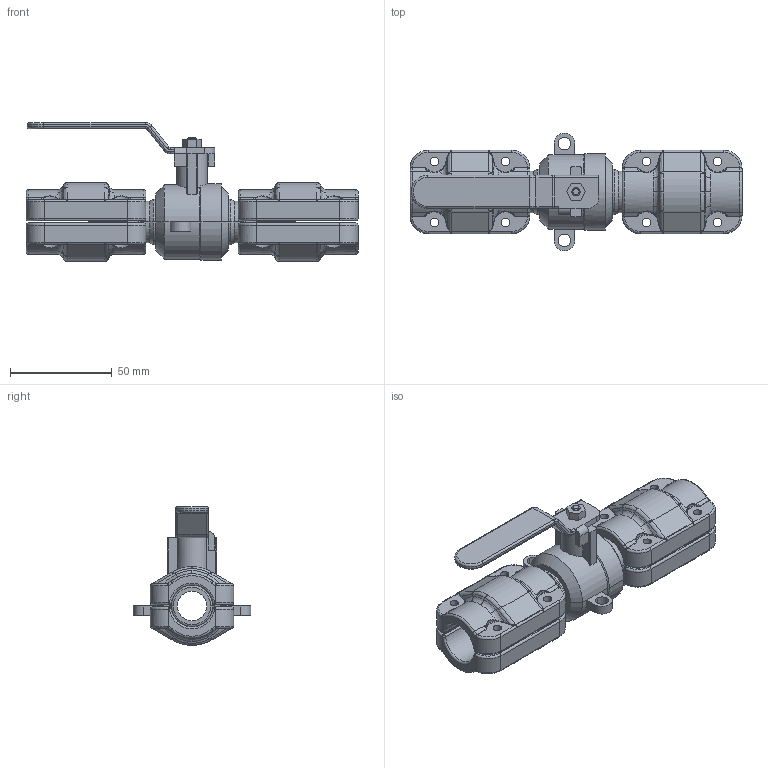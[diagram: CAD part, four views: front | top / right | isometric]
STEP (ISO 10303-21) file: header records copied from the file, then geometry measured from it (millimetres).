
FILE_DESCRIPTION((''),'2;1');
FILE_NAME('2015105199_ASM','2017-05-13T',('li'),(''),'PRO/ENGINEER BY PARAMETRIC TECHNOLOGY CORPORATION, 2009360','PRO/ENGINEER BY PARAMETRIC TECHNOLOGY CORPORATION, 2009360','');
FILE_SCHEMA(('AUTOMOTIVE_DESIGN { 1 0 10303 214 1 1 1 1 }'));
Length unit declared in the file: millimetre
Products named in the file (5): 2015105100; 201510020000_38; 201510020001_10; 2015100200_ASM; 2015105199_ASM
Assembly tree (5 placements, depth 3):
  2015105199_ASM
    2015105100
    2015100200_ASM  x2
      201510020000_38
      201510020001_10
Bounding box: 163.49 x 57.85 x 68.33 mm (x, y, z)
Volume: 117606.9 mm3; surface area: 58583.9 mm2
Topology: 5 solids, 17 shells, 890 faces, 2106 edges, 1259 vertices
Faces by surface type: cylinder 287, bspline 272, torus 134, plane 128, cone 53, sphere 16
Entity records: 24166 total; most frequent: CARTESIAN_POINT 8861, ORIENTED_EDGE 2492, DIRECTION 2155, PRESENTATION_STYLE_ASSIGNMENT 1249, STYLED_ITEM 1249, CURVE_STYLE 1246, EDGE_CURVE 1246, AXIS2_PLACEMENT_3D 886
